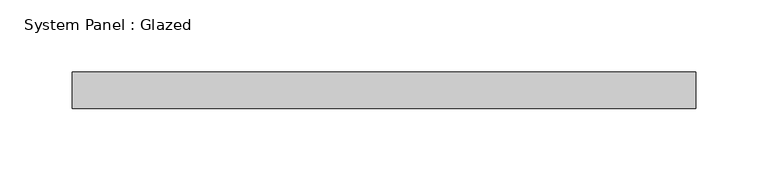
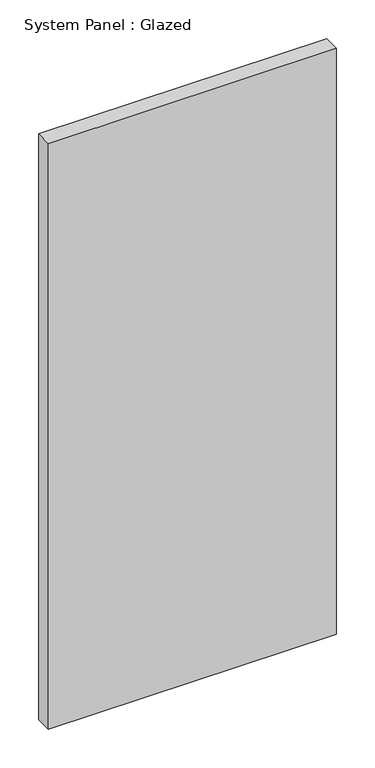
"""IFC4 building model written with IfcOpenShell, lengths in millimetres: plate geometry, System Panel : Glazed."""

from ifc_helpers import new_model, si_unit, origin, origin_with_axes, place, context, project, spatial, polyline, outline, extrude, source, transform, mapped, element, save


def system_panel_glazed_89d05f72(model_context):
    return source(origin(), model_context, "Body", "SweptSolid", [
        extrude(outline(polyline([(215.0, 24.5), (-215.0, 24.5), (-215.0, 49.5), (215.0, 49.5), (215.0, 24.5)])), origin_with_axes(), (0.0, 0.0, 1.0), 925.0),
    ])


if __name__ == "__main__":
    model = new_model("IFC4")
    model_context = context("Model", 3, world=origin())
    ifc_project = project(units=[si_unit("LENGTHUNIT", "METRE", prefix="MILLI")], contexts=[model_context])
    site = spatial("IfcSite", under=ifc_project)
    building = spatial("IfcBuilding", under=site)
    placement = place(None, origin())
    system_panel_glazed_shape = system_panel_glazed_89d05f72(model_context)
    element("IfcPlate", 1, ObjectType="System Panel : Glazed", at=placement, inside=building, context=model_context, shape_type="MappedRepresentation", body=[
        mapped(system_panel_glazed_shape, transform((0.0, 0.0, 0.0), x_axis=(1.0, 0.0, 0.0), y_axis=(0.0, 1.0, 0.0), z_axis=(0.0, 0.0, 1.0))),
    ])
    save(model, "model.ifc")
